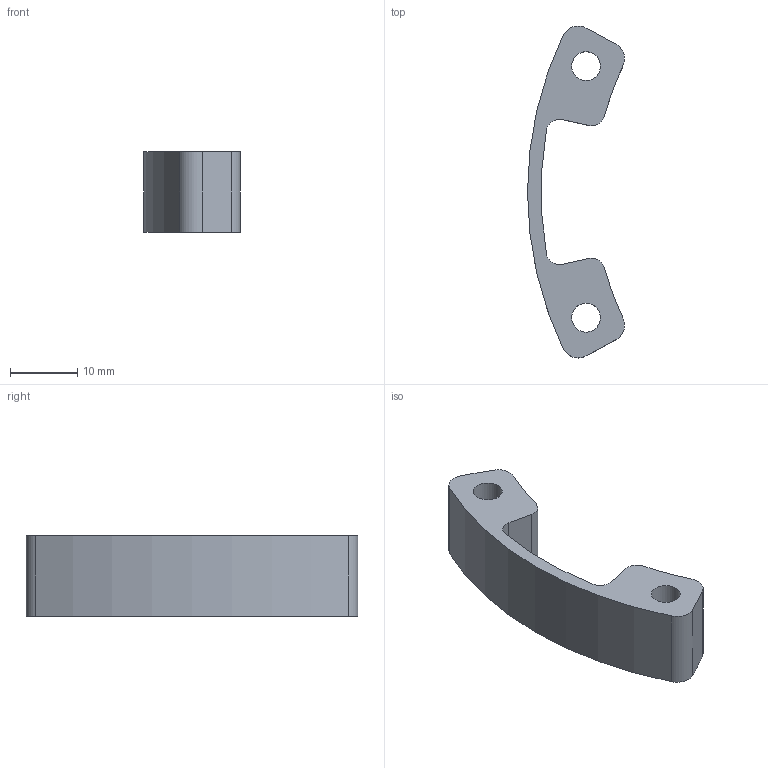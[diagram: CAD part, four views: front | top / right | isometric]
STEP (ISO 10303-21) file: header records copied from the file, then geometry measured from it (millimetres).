
FILE_DESCRIPTION(/* description */ ('STEP AP242 Edition 2','CAx-IF Rec.Pracs.---Representation and Presentation of Product Manufacturing Information (PMI)---4.0---2014-10-13','CAx-IF Rec.Pracs.---3D Tessellated Geometry---0.4---2014-09-14','2;1','CAx-IF Rec.Pracs.---User Defined Attributes---1.5---2016-08-15'),/* implementation_level */ '2;1');
FILE_NAME(/* name */ 'Assy_ForMFG - KD-D-203R',/* time_stamp */ '2026-05-15T19:56:35Z',/* author */ (''),/* organization */ (''),/* preprocessor_version */ 'ST-DEVELOPER v20',/* originating_system */ 'ONSHAPE BY PTC INC, 1.215',/* authorisation */ ' ');
FILE_SCHEMA (('AP242_MANAGED_MODEL_BASED_3D_ENGINEERING_MIM_LF { 1 0 10303 442 3 1 4 }'));
Length unit declared in the file: metre
Products named in the file (1): KD-D-203R
Bounding box: 14.45 x 49.46 x 12 mm (x, y, z)
Volume: 3132 mm3; surface area: 2523.8 mm2
Topology: 1 solids, 1 shells, 24 faces, 60 edges, 40 vertices
Faces by surface type: cylinder 16, plane 8
Full cylindrical faces by diameter (mm): 4.3 x2, 8.25 x2
Entity records: 746 total; most frequent: DIRECTION 138, CARTESIAN_POINT 121, ORIENTED_EDGE 112, AXIS2_PLACEMENT_3D 57, EDGE_CURVE 56, VERTEX_POINT 40, EDGE_LOOP 34, FACE_BOUND 34
